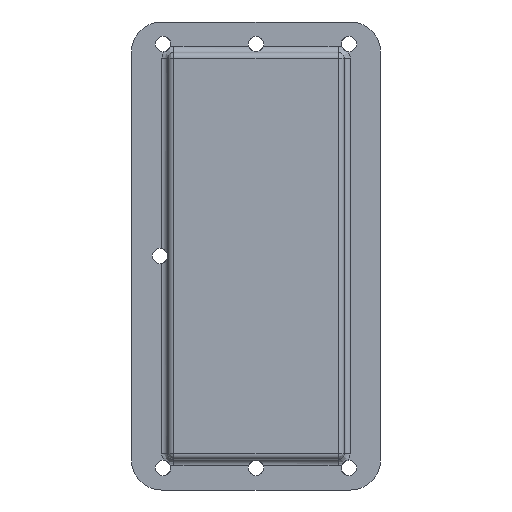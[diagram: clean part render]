
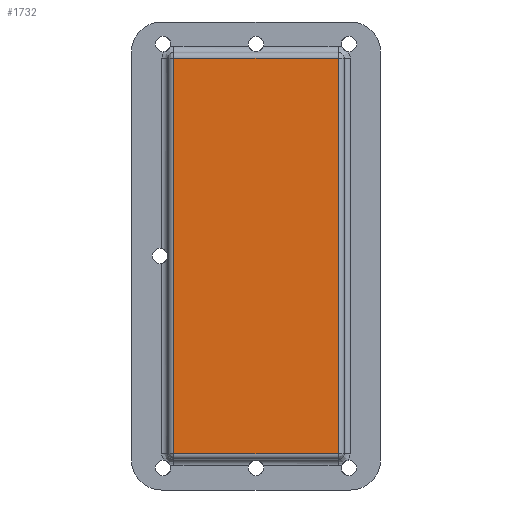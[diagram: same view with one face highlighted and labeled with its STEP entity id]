
A CAD part, front view. The second image highlights one B-rep face of the part: STEP entity #1732.
In plain terms, the highlighted planar face has unit normal (0, -1, 0).
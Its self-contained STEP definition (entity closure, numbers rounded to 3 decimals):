
#86 = LINE ( 'NONE', #7660, #5113 ) ;
#454 = EDGE_CURVE ( 'NONE', #4145, #1099, #7500, .T. ) ;
#666 = CARTESIAN_POINT ( 'NONE',  ( -29.3, -7.6, 65.7 ) ) ;
#951 = DIRECTION ( 'NONE',  ( -1., 0., 0. ) ) ;
#1099 = VERTEX_POINT ( 'NONE', #7265 ) ;
#1263 = DIRECTION ( 'NONE',  ( 0., 0., 1. ) ) ;
#1348 = CARTESIAN_POINT ( 'NONE',  ( -27.3, -7.6, -65.7 ) ) ;
#1410 = CARTESIAN_POINT ( 'NONE',  ( -29.3, -7.6, 67.7 ) ) ;
#1539 = CARTESIAN_POINT ( 'NONE',  ( -29.3, -7.6, -65.7 ) ) ;
#1732 = ADVANCED_FACE ( 'NONE', ( #6593 ), #7803, .F. ) ;
#1734 = DIRECTION ( 'NONE',  ( 0., 0., -1. ) ) ;
#1927 = ORIENTED_EDGE ( 'NONE', *, *, #2935, .F. ) ;
#2673 = DIRECTION ( 'NONE',  ( 0., 0., 1. ) ) ;
#2935 = EDGE_CURVE ( 'NONE', #1099, #5635, #7276, .T. ) ;
#3209 = VECTOR ( 'NONE', #1734, 1000. ) ;
#4145 = VERTEX_POINT ( 'NONE', #6316 ) ;
#4666 = ORIENTED_EDGE ( 'NONE', *, *, #454, .F. ) ;
#4899 = VECTOR ( 'NONE', #951, 1000. ) ;
#5079 = AXIS2_PLACEMENT_3D ( 'NONE', #1410, #5871, #2673 ) ;
#5085 = DIRECTION ( 'NONE',  ( 1., 0., 0. ) ) ;
#5113 = VECTOR ( 'NONE', #1263, 1000. ) ;
#5635 = VERTEX_POINT ( 'NONE', #1348 ) ;
#5716 = EDGE_CURVE ( 'NONE', #5635, #6753, #86, .T. ) ;
#5871 = DIRECTION ( 'NONE',  ( 0., 1., 0. ) ) ;
#6073 = ORIENTED_EDGE ( 'NONE', *, *, #5716, .F. ) ;
#6316 = CARTESIAN_POINT ( 'NONE',  ( 27.3, -7.6, 65.7 ) ) ;
#6593 = FACE_OUTER_BOUND ( 'NONE', #7263, .T. ) ;
#6753 = VERTEX_POINT ( 'NONE', #8000 ) ;
#6892 = VECTOR ( 'NONE', #5085, 1000. ) ;
#6988 = LINE ( 'NONE', #666, #6892 ) ;
#7263 = EDGE_LOOP ( 'NONE', ( #4666, #8328, #6073, #1927 ) ) ;
#7265 = CARTESIAN_POINT ( 'NONE',  ( 27.3, -7.6, -65.7 ) ) ;
#7276 = LINE ( 'NONE', #1539, #4899 ) ;
#7500 = LINE ( 'NONE', #8097, #3209 ) ;
#7660 = CARTESIAN_POINT ( 'NONE',  ( -27.3, -7.6, 67.7 ) ) ;
#7803 = PLANE ( 'NONE',  #5079 ) ;
#8000 = CARTESIAN_POINT ( 'NONE',  ( -27.3, -7.6, 65.7 ) ) ;
#8097 = CARTESIAN_POINT ( 'NONE',  ( 27.3, -7.6, 67.7 ) ) ;
#8171 = EDGE_CURVE ( 'NONE', #6753, #4145, #6988, .T. ) ;
#8328 = ORIENTED_EDGE ( 'NONE', *, *, #8171, .F. ) ;
